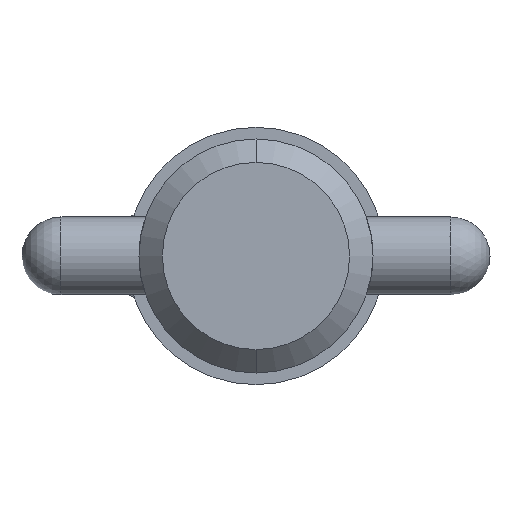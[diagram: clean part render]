
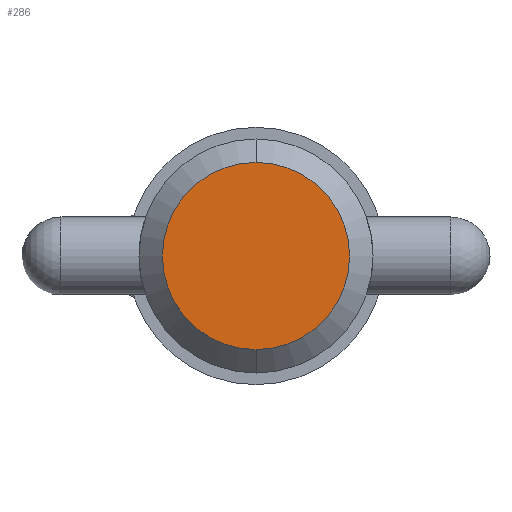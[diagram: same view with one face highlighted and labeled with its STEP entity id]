
A CAD part, left-side view. The second image highlights one B-rep face of the part: STEP entity #286.
In plain terms, the highlighted planar face has unit normal (-1, 0, 0).
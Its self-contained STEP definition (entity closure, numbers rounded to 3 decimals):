
#24 = DIRECTION ( 'NONE',  ( 0., 0., -1. ) ) ;
#34 = CARTESIAN_POINT ( 'NONE',  ( 0., 0., -7.62 ) ) ;
#50 = AXIS2_PLACEMENT_3D ( 'NONE', #734, #738, #824 ) ;
#125 = CARTESIAN_POINT ( 'NONE',  ( 0., 0., 0. ) ) ;
#160 = ORIENTED_EDGE ( 'NONE', *, *, #730, .F. ) ;
#198 = DIRECTION ( 'NONE',  ( 0., 0., -1. ) ) ;
#242 = FACE_OUTER_BOUND ( 'NONE', #337, .T. ) ;
#257 = VERTEX_POINT ( 'NONE', #494 ) ;
#263 = AXIS2_PLACEMENT_3D ( 'NONE', #125, #512, #198 ) ;
#286 = ADVANCED_FACE ( 'NONE', ( #242 ), #317, .T. ) ;
#317 = PLANE ( 'NONE',  #50 ) ;
#337 = EDGE_LOOP ( 'NONE', ( #1020, #160 ) ) ;
#383 = CIRCLE ( 'NONE', #263, 7.62 ) ;
#402 = DIRECTION ( 'NONE',  ( 1., 0., 0. ) ) ;
#494 = CARTESIAN_POINT ( 'NONE',  ( 0., 0., 7.62 ) ) ;
#501 = AXIS2_PLACEMENT_3D ( 'NONE', #674, #402, #24 ) ;
#512 = DIRECTION ( 'NONE',  ( 1., 0., 0. ) ) ;
#562 = EDGE_CURVE ( 'NONE', #965, #257, #383, .T. ) ;
#626 = CIRCLE ( 'NONE', #501, 7.62 ) ;
#674 = CARTESIAN_POINT ( 'NONE',  ( 0., 0., 0. ) ) ;
#730 = EDGE_CURVE ( 'NONE', #257, #965, #626, .T. ) ;
#734 = CARTESIAN_POINT ( 'NONE',  ( 0., 0., 0. ) ) ;
#738 = DIRECTION ( 'NONE',  ( -1., 0., 0. ) ) ;
#824 = DIRECTION ( 'NONE',  ( 0., 0., 1. ) ) ;
#965 = VERTEX_POINT ( 'NONE', #34 ) ;
#1020 = ORIENTED_EDGE ( 'NONE', *, *, #562, .F. ) ;
